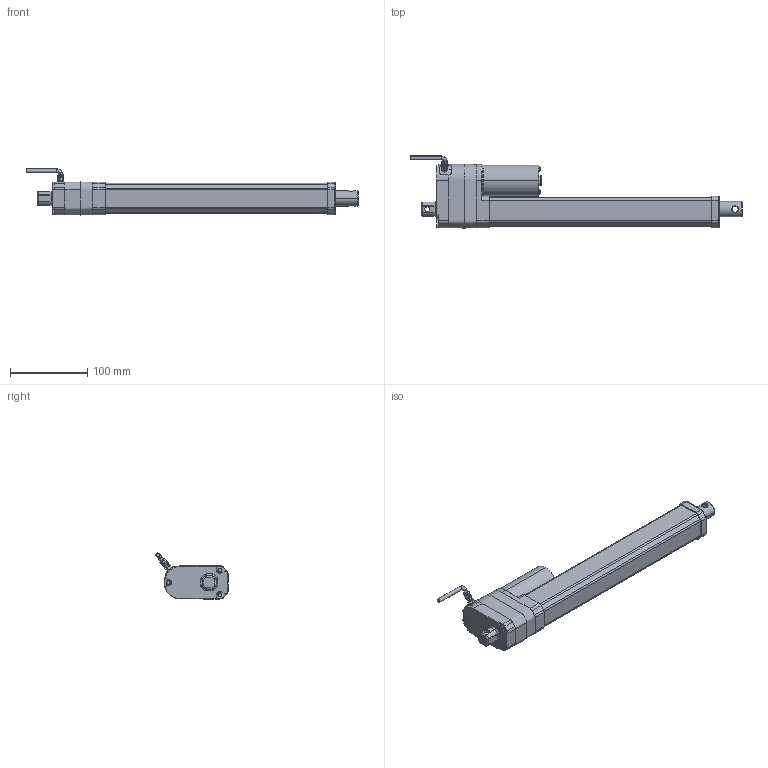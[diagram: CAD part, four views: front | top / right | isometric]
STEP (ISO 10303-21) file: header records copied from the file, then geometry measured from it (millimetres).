
FILE_DESCRIPTION((''),' ');
FILE_NAME('dszy11_250_pot.stp',' ',('r'),('r'),' ','ACIS 14.0',' ');
FILE_SCHEMA(('automotive_design'));
Length unit declared in the file: inch
Products named in the file (3): DSZY11-POT-250
Bounding box: 430.45 x 93.39 x 59.66 mm (x, y, z)
Volume: 412002.3 mm3; surface area: 152102.9 mm2
Topology: 3 solids, 3 shells, 320 faces, 842 edges, 551 vertices
Faces by surface type: cylinder 130, plane 121, torus 32, cone 20, bspline 13, sphere 4
Entity records: 13310 total; most frequent: CARTESIAN_POINT 2632, DIRECTION 1741, ORIENTED_EDGE 1672, EDGE_CURVE 836, AXIS2_PLACEMENT_3D 679, VERTEX_POINT 551, LINE 383, VECTOR 383
